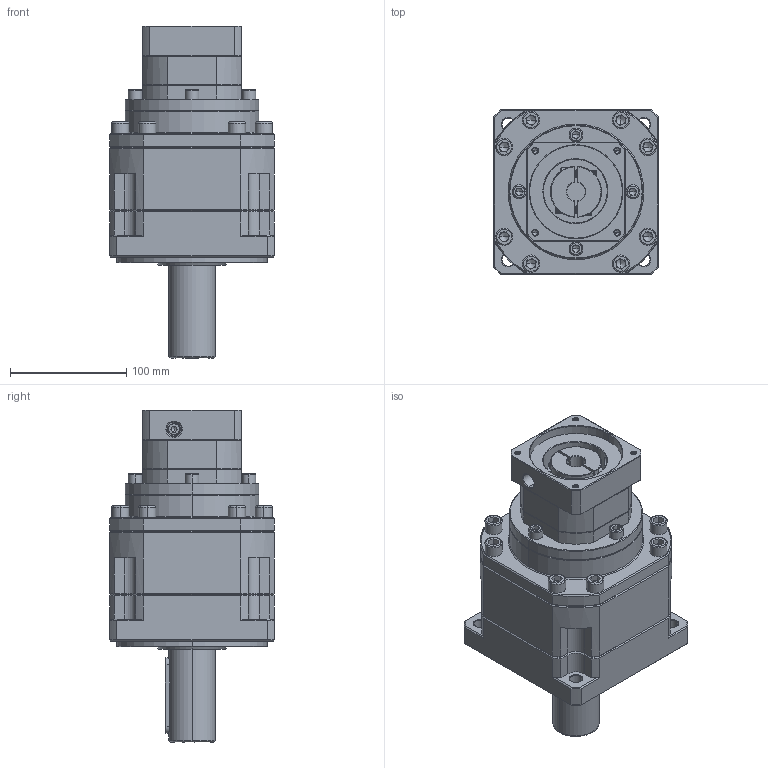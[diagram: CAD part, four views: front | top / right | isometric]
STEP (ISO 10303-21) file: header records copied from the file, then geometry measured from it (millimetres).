
FILE_DESCRIPTION (( 'STEP AP214' ), '1' );
FILE_NAME ('ZB142A-D40-L3-P2-16-80-100-M6.step', '2023-09-02T06:21:23', ( '' ), ( '' ), 'SwSTEP 2.0', 'SolidWorks 2016', '' );
FILE_SCHEMA (( 'AUTOMOTIVE_DESIGN' ));
Length unit declared in the file: millimetre
Products named in the file (1): ZB142A-D40-L3-P2-16-80-100-M6
Bounding box: 142 x 142 x 286.2 mm (x, y, z)
Volume: 2765445.5 mm3; surface area: 200437.1 mm2
Topology: 5 solids, 6 shells, 2541 faces, 6621 edges, 4201 vertices
Faces by surface type: plane 1236, cylinder 473, bspline 443, cone 374, torus 15
Entity records: 135801 total; most frequent: CARTESIAN_POINT 49266, ORIENTED_EDGE 13134, DIRECTION 10545, EDGE_CURVE 6567, VECTOR 4217, LINE 4217, VERTEX_POINT 4201, AXIS2_PLACEMENT_3D 3164
